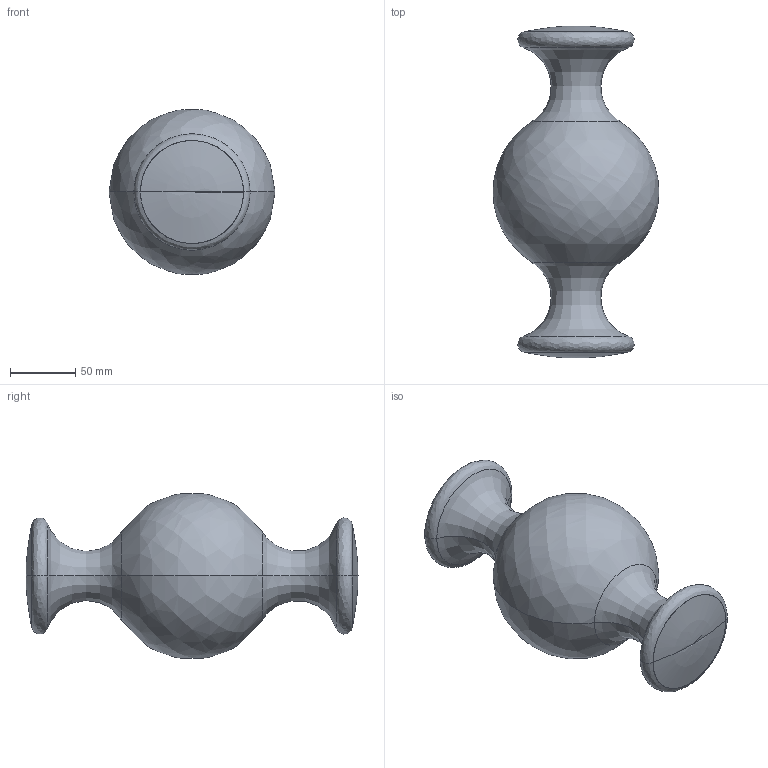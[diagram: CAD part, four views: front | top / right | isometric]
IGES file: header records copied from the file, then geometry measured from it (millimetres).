
Start section: IGES file: srfOfRev.igs
Global section: file name: zzzzzzzzzz; native system: zzzzzzzzzzzzzzzzzzzzzzzzzzzzzzzzzzzzzzzzzzzzzzzzz; preprocessor: zzzzzzz; author: zzzzzzzzz; organization: Unknown; date: zzzzzzzzzzzzzzz; units: inch
Bounding box: 127 x 254 x 125.99 mm (x, y, z)
Surface area: 84319.1 mm2 (no closed solid volume)
Topology: 0 solids, 0 shells, 14 faces, 56 edges, 52 vertices
Faces by surface type: revolution 14
